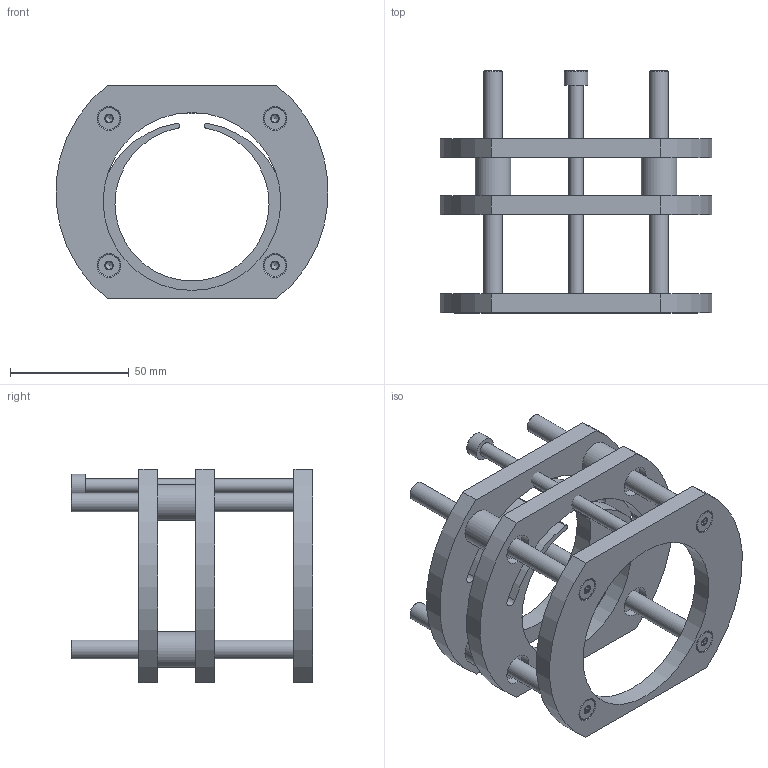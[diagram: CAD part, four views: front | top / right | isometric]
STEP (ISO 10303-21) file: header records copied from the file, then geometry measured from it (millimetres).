
FILE_DESCRIPTION(/* description */ (''),/* implementation_level */ '2;1');
FILE_NAME(/* name */ 'C:\CAD_Work\Designs\APR\APR-HYD\HYD\1 Table Saw\Table Saw Assembly\Router Lift\AliEx Router Lift\Ali Router Lift Assy.stp',/* time_stamp */ '2023-08-15T11:42:26+10:00',/* author */ ('AB390293'),/* organization */ (''),/* preprocessor_version */ 'ST-DEVELOPER v18.1',/* originating_system */ 'Autodesk Inventor 2020',/* authorisation */ '');
FILE_SCHEMA (('AUTOMOTIVE_DESIGN { 1 0 10303 214 3 1 1 }'));
Length unit declared in the file: millimetre
Products named in the file (7): Ali Router Lift Assy; Post Support Plate; Corner Post; Motor mount plate; Guide Bush; Jacking Screw; Post CS Screws
Assembly tree (16 placements, depth 2):
  Ali Router Lift Assy
    Post Support Plate
    Corner Post  x4
    Motor mount plate  x2
    Guide Bush  x4
    Jacking Screw
    Post CS Screws  x4
Bounding box: 114.62 x 102 x 90 mm (x, y, z)
Volume: 145445.3 mm3; surface area: 71727.4 mm2
Topology: 16 solids, 16 shells, 316 faces, 813 edges, 543 vertices
Faces by surface type: plane 144, cylinder 112, cone 51, torus 9
Full cylindrical faces by diameter (mm): 4.134 x8, 4.917 x2, 5 x4, 5.5 x4, 6 x2, 8 x12, 10 x1, 13 x8, 15 x12, 75 x1
Entity records: 4528 total; most frequent: DIRECTION 803, CARTESIAN_POINT 773, ORIENTED_EDGE 676, EDGE_CURVE 338, AXIS2_PLACEMENT_3D 334, VERTEX_POINT 232, CIRCLE 179, EDGE_LOOP 170
